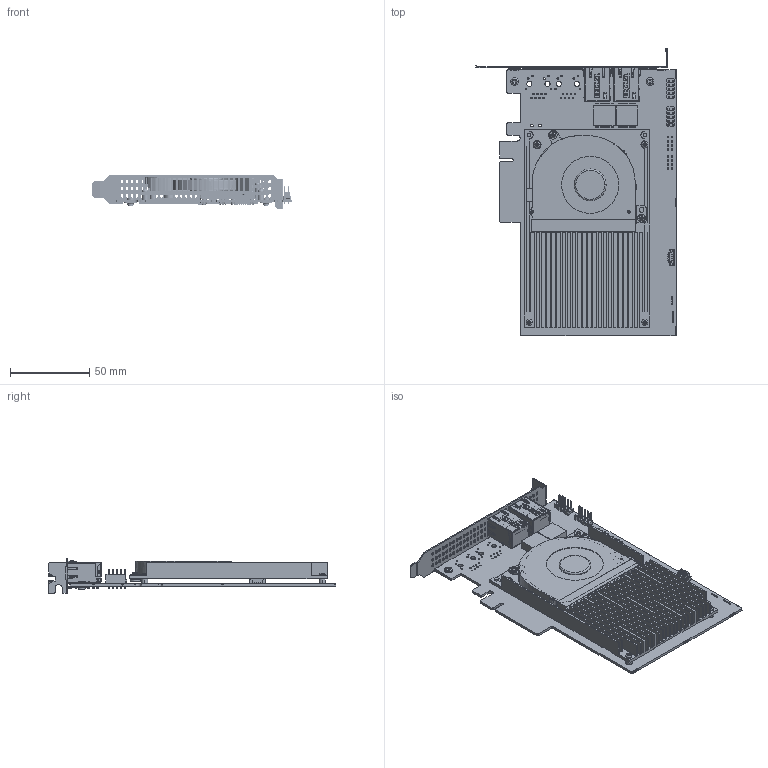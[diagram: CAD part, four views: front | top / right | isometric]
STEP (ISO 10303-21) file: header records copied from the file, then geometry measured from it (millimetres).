
FILE_DESCRIPTION((''),'2;1');
FILE_NAME('MV-GT1002_ASM','2022-11-02T14:57:08',('jiabaodong'),(''),'CREO PARAMETRIC BY PTC INC, 2020044','CREO PARAMETRIC BY PTC INC, 2020044','');
FILE_SCHEMA(('CONFIG_CONTROL_DESIGN'));
Products named in the file (59): MV-20341REV10_0815-2205-2-135_5; 101106926_4_1_1_1; PANEL_20_80_200_SINGLE_6_1_1_1; 910600627_ASM_3_1_1_1; 910901005_ASM_3_1_1_1; 101305301_3_1_1_1; 101301447_5_1_1_1; 101306305_4_1_1_1; 101306305_4_2_1_1; 101306305_4_3_1_1; 101306305_4_4_1_1; 101306305_4_5_1_1; 101306305_4_6_1_1; 101306305_4_7_1_1; 101306305_4_8_1_1; 101306305_4_9_1_1; 101306305_4_10_1_1; 101306305_4_11_1_1; 101306305_4_12_1_1; 101306305_4_13_1_1; 101306305_4_14_1_1; 101306305_4_15_1_1; 101306305_4_16_1_1; 101306305_4_17_1_1; 101306305_4_18_1_1; 101306305_4_19_1_1; 101306305_4_ASM_1_ASM_1_ASM; 100500107_4_1_1_1; 193500411_3_1_1_1; MV-20341REV10_0815-2205-2-135_6_ASM; DE-20-008478_ASM_19_ASM_1_ASM_1_ASM; DE-19-003607_27_1_1_1; 8002-CLS-M2-0_3_1_1_1; SC-P0M2X4B-GB818_1_1_1_1; DE-20-008481_ASM_13_ASM_1_ASM_1_ASM; DE-19-003609_4_1_1_1; DE-19-003610_4_1_1_1; DE-19-003611_4_1_1_1; DE-19-003612_4_1_1_1; DE-19-003613_4_1_1_1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
Assembly tree (85 placements, depth 12):
  MV-GT1002_ASM
    ASM0003_ASM_1_ASM
      MV-GT1002_ASM_1_ASM_1_ASM
        000-MV-GT1004_ASM_23_ASM_1_ASM__ASM
          DE-20-008478_ASM_19_ASM_1_ASM_1_ASM
            MV-20341REV10_0815-2205-2-135_6_ASM
              MV-20341REV10_0815-2205-2-135_5
              101106926_4_1_1_1
              PANEL_20_80_200_SINGLE_6_1_1_1
              910600627_ASM_3_1_1_1  x16
              910901005_ASM_3_1_1_1  x2
              101305301_3_1_1_1  x2
              101301447_5_1_1_1
              101306305_4_ASM_1_ASM_1_ASM  x2
                101306305_4_1_1_1
                101306305_4_2_1_1
                101306305_4_3_1_1
                101306305_4_4_1_1
                101306305_4_5_1_1
                101306305_4_6_1_1
                101306305_4_7_1_1
                101306305_4_8_1_1
                101306305_4_9_1_1
                101306305_4_10_1_1
                101306305_4_11_1_1
                101306305_4_12_1_1
                101306305_4_13_1_1
                101306305_4_14_1_1
                101306305_4_15_1_1
                101306305_4_16_1_1
                101306305_4_17_1_1
                101306305_4_18_1_1
                101306305_4_19_1_1
              100500107_4_1_1_1  x2
              193500411_3_1_1_1  x4
          DE-20-008480_ASM_20_ASM_1_ASM_1_ASM
            DE-20-008481_ASM_13_ASM_1_ASM_1_ASM
              DE-19-003607_27_1_1_1
              8002-CLS-M2-0_3_1_1_1
              SC-P0M2X4B-GB818_1_1_1_1  x4
            DE-20-008482_ASM_6_ASM_1_ASM_1_ASM
              DE-19-003608_ASM_4_ASM_1_ASM_1_ASM
                DE-19-003609_4_1_1_1
                DE-19-003610_4_1_1_1
                DE-19-003611_4_1_1_1
                DE-19-003612_4_1_1_1
                DE-19-003613_4_1_1_1
                DE-19-003614_4_1_1_1
            SVA2500-20220818_ASM_1_ASM_1_AS_ASM
              SVA2500-HEAT_SINK-ASM_0816_AS_2_ASM
                _-202208120001_ASM_1_ASM_1_AS_3_ASM
                  _0001_ASM_ASM_1_ASM_1_ASM_1_A_3_ASM
                PRT0004_1_1_1_1_1
          SC-PM3X4_3_1_1_1  x2
          SC-TWM2X4_3_1_1_1  x2
          DE-11-034443_8_1_1_1
Bounding box: 126.31 x 181.07 x 21.59 mm (x, y, z)
Volume: 59806.7 mm3; surface area: 126879.3 mm2
Topology: 67 solids, 96 shells, 8403 faces, 23420 edges, 15250 vertices
Faces by surface type: plane 5824, cylinder 2235, bspline 233, torus 59, cone 46, revolution 4, sphere 2
Entity records: 168303 total; most frequent: CARTESIAN_POINT 34776, ORIENTED_EDGE 28088, DIRECTION 27095, EDGE_CURVE 14093, VECTOR 10483, LINE 10483, VERTEX_POINT 9217, AXIS2_PLACEMENT_3D 8305
